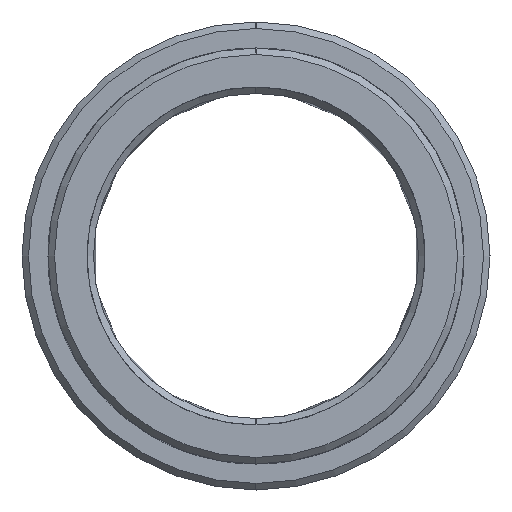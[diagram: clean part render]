
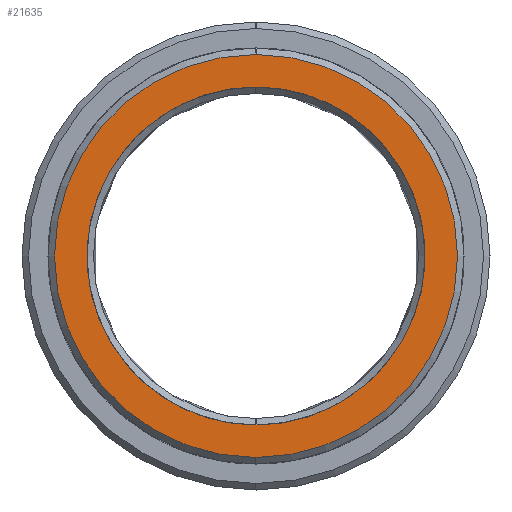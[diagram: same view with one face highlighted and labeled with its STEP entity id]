
A CAD part, left-side view. The second image highlights one B-rep face of the part: STEP entity #21635.
In plain terms, the highlighted planar face has unit normal (1, 0, 0).
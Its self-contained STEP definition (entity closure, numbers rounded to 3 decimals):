
#21552=CARTESIAN_POINT('Axis2P3D Location',(-18.,0.,0.)) ;
#21557=CARTESIAN_POINT('Axis2P3D Location',(-18.,0.,0.)) ;
#21561=CARTESIAN_POINT('Vertex',(-18.,0.,-15.5)) ;
#21563=CARTESIAN_POINT('Vertex',(-18.,0.,15.5)) ;
#21566=CARTESIAN_POINT('Axis2P3D Location',(-18.,0.,0.)) ;
#21576=CARTESIAN_POINT('Control Point',(-18.,0.,13.)) ;
#21577=CARTESIAN_POINT('Control Point',(-18.,1.236,13.)) ;
#21578=CARTESIAN_POINT('Control Point',(-18.,2.473,12.853)) ;
#21579=CARTESIAN_POINT('Control Point',(-18.,3.686,12.559)) ;
#21580=CARTESIAN_POINT('Control Point',(-18.,6.019,11.688)) ;
#21581=CARTESIAN_POINT('Control Point',(-18.,8.083,10.295)) ;
#21582=CARTESIAN_POINT('Control Point',(-18.,9.027,9.478)) ;
#21583=CARTESIAN_POINT('Control Point',(-18.,10.702,7.635)) ;
#21584=CARTESIAN_POINT('Control Point',(-18.,11.899,5.452)) ;
#21585=CARTESIAN_POINT('Control Point',(-18.,12.365,4.293)) ;
#21586=CARTESIAN_POINT('Control Point',(-18.,13.011,1.888)) ;
#21587=CARTESIAN_POINT('Control Point',(-18.,13.075,-0.601)) ;
#21588=CARTESIAN_POINT('Control Point',(-18.,12.958,-1.844)) ;
#21589=CARTESIAN_POINT('Control Point',(-18.,12.432,-4.278)) ;
#21590=CARTESIAN_POINT('Control Point',(-18.,11.349,-6.521)) ;
#21591=CARTESIAN_POINT('Control Point',(-18.,10.676,-7.572)) ;
#21592=CARTESIAN_POINT('Control Point',(-18.,9.093,-9.495)) ;
#21593=CARTESIAN_POINT('Control Point',(-18.,7.104,-10.993)) ;
#21594=CARTESIAN_POINT('Control Point',(-18.,6.025,-11.62)) ;
#21595=CARTESIAN_POINT('Control Point',(-18.,4.188,-12.411)) ;
#21596=CARTESIAN_POINT('Control Point',(-18.,2.243,-12.838)) ;
#21597=CARTESIAN_POINT('Control Point',(-18.,1.499,-12.946)) ;
#21598=CARTESIAN_POINT('Control Point',(-18.,0.749,-13.)) ;
#21599=CARTESIAN_POINT('Control Point',(-18.,0.,-13.)) ;
#21600=CARTESIAN_POINT('Vertex',(-18.,0.,13.)) ;
#21602=CARTESIAN_POINT('Vertex',(-18.,0.,-13.)) ;
#21606=CARTESIAN_POINT('Control Point',(-18.,0.,-13.)) ;
#21607=CARTESIAN_POINT('Control Point',(-18.,-1.236,-13.)) ;
#21608=CARTESIAN_POINT('Control Point',(-18.,-2.473,-12.853)) ;
#21609=CARTESIAN_POINT('Control Point',(-18.,-3.686,-12.559)) ;
#21610=CARTESIAN_POINT('Control Point',(-18.,-6.019,-11.688)) ;
#21611=CARTESIAN_POINT('Control Point',(-18.,-8.083,-10.295)) ;
#21612=CARTESIAN_POINT('Control Point',(-18.,-9.027,-9.478)) ;
#21613=CARTESIAN_POINT('Control Point',(-18.,-10.702,-7.635)) ;
#21614=CARTESIAN_POINT('Control Point',(-18.,-11.899,-5.452)) ;
#21615=CARTESIAN_POINT('Control Point',(-18.,-12.365,-4.293)) ;
#21616=CARTESIAN_POINT('Control Point',(-18.,-13.011,-1.888)) ;
#21617=CARTESIAN_POINT('Control Point',(-18.,-13.075,0.601)) ;
#21618=CARTESIAN_POINT('Control Point',(-18.,-12.958,1.844)) ;
#21619=CARTESIAN_POINT('Control Point',(-18.,-12.432,4.278)) ;
#21620=CARTESIAN_POINT('Control Point',(-18.,-11.349,6.521)) ;
#21621=CARTESIAN_POINT('Control Point',(-18.,-10.676,7.572)) ;
#21622=CARTESIAN_POINT('Control Point',(-18.,-9.093,9.495)) ;
#21623=CARTESIAN_POINT('Control Point',(-18.,-7.104,10.993)) ;
#21624=CARTESIAN_POINT('Control Point',(-18.,-6.025,11.62)) ;
#21625=CARTESIAN_POINT('Control Point',(-18.,-4.188,12.411)) ;
#21626=CARTESIAN_POINT('Control Point',(-18.,-2.243,12.838)) ;
#21627=CARTESIAN_POINT('Control Point',(-18.,-1.499,12.946)) ;
#21628=CARTESIAN_POINT('Control Point',(-18.,-0.749,13.)) ;
#21629=CARTESIAN_POINT('Control Point',(-18.,0.,13.)) ;
#21553=DIRECTION('Axis2P3D Direction',(1.,0.,0.)) ;
#21554=DIRECTION('Axis2P3D XDirection',(0.,1.,0.)) ;
#21558=DIRECTION('Axis2P3D Direction',(1.,0.,0.)) ;
#21567=DIRECTION('Axis2P3D Direction',(1.,0.,0.)) ;
#21555=AXIS2_PLACEMENT_3D('Plane Axis2P3D',#21552,#21553,#21554) ;
#21559=AXIS2_PLACEMENT_3D('Circle Axis2P3D',#21557,#21558,$) ;
#21568=AXIS2_PLACEMENT_3D('Circle Axis2P3D',#21566,#21567,$) ;
#21572=ORIENTED_EDGE('',*,*,#21565,.T.) ;
#21573=ORIENTED_EDGE('',*,*,#21570,.T.) ;
#21632=ORIENTED_EDGE('',*,*,#21604,.T.) ;
#21633=ORIENTED_EDGE('',*,*,#21630,.T.) ;
#21634=FACE_BOUND('',#21631,.T.) ;
#21635=ADVANCED_FACE('MANIFOLD_SOLID_BREP #11647',(#21574,#21634),#21556,.T.) ;
#21575=B_SPLINE_CURVE_WITH_KNOTS('',5,(#21576,#21577,#21578,#21579,#21580,#21581,#21582,#21583,#21584,#21585,#21586,#21587,#21588,#21589,#21590,#21591,#21592,#21593,#21594,#21595,#21596,#21597,#21598,#21599),.UNSPECIFIED.,.F.,.U.,(6,3,3,3,3,3,3,6),(0.,8.743,17.486,26.229,34.972,43.715,52.457,57.757),.UNSPECIFIED.) ;
#21605=B_SPLINE_CURVE_WITH_KNOTS('',5,(#21606,#21607,#21608,#21609,#21610,#21611,#21612,#21613,#21614,#21615,#21616,#21617,#21618,#21619,#21620,#21621,#21622,#21623,#21624,#21625,#21626,#21627,#21628,#21629),.UNSPECIFIED.,.F.,.U.,(6,3,3,3,3,3,3,6),(0.,8.743,17.486,26.229,34.972,43.715,52.457,57.757),.UNSPECIFIED.) ;
#21560=CIRCLE('generated circle',#21559,15.5) ;
#21569=CIRCLE('generated circle',#21568,15.5) ;
#21565=EDGE_CURVE('',#21562,#21564,#21560,.T.) ;
#21570=EDGE_CURVE('',#21564,#21562,#21569,.T.) ;
#21604=EDGE_CURVE('',#21601,#21603,#21575,.T.) ;
#21630=EDGE_CURVE('',#21603,#21601,#21605,.T.) ;
#21571=EDGE_LOOP('',(#21572,#21573)) ;
#21631=EDGE_LOOP('',(#21632,#21633)) ;
#21574=FACE_OUTER_BOUND('',#21571,.T.) ;
#21556=PLANE('Plane',#21555) ;
#21562=VERTEX_POINT('',#21561) ;
#21564=VERTEX_POINT('',#21563) ;
#21601=VERTEX_POINT('',#21600) ;
#21603=VERTEX_POINT('',#21602) ;
